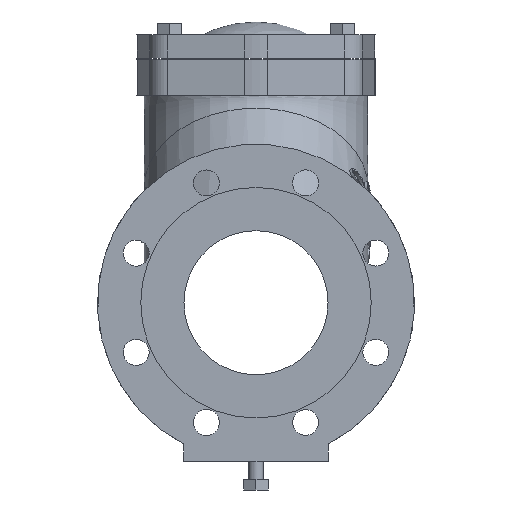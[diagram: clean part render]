
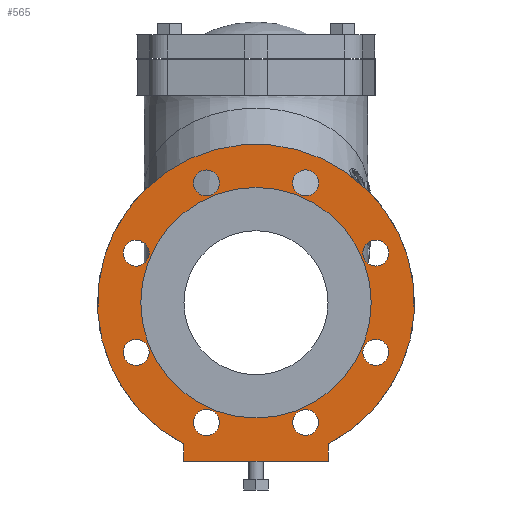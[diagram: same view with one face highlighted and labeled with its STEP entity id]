
A CAD part, front view. The second image highlights one B-rep face of the part: STEP entity #565.
In plain terms, the highlighted planar face has unit normal (0, -1, 0).
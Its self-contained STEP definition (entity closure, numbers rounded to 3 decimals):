
#565 = ADVANCED_FACE( '', ( #1348, #1349, #1350, #1351, #1352, #1353, #1354, #1355, #1356, #1357 ), #1358, .F. );
#1348 = FACE_OUTER_BOUND( '', #5144, .T. );
#1349 = FACE_BOUND( '', #5145, .T. );
#1350 = FACE_BOUND( '', #5146, .T. );
#1351 = FACE_BOUND( '', #5147, .T. );
#1352 = FACE_BOUND( '', #5148, .T. );
#1353 = FACE_BOUND( '', #5149, .T. );
#1354 = FACE_BOUND( '', #5150, .T. );
#1355 = FACE_BOUND( '', #5151, .T. );
#1356 = FACE_BOUND( '', #5152, .T. );
#1357 = FACE_BOUND( '', #5153, .T. );
#1358 = PLANE( '', #5154 );
#5144 = EDGE_LOOP( '', ( #12968, #12969, #12970, #12971 ) );
#5145 = EDGE_LOOP( '', ( #12972 ) );
#5146 = EDGE_LOOP( '', ( #12973 ) );
#5147 = EDGE_LOOP( '', ( #12974 ) );
#5148 = EDGE_LOOP( '', ( #12975 ) );
#5149 = EDGE_LOOP( '', ( #12976 ) );
#5150 = EDGE_LOOP( '', ( #12977 ) );
#5151 = EDGE_LOOP( '', ( #12978 ) );
#5152 = EDGE_LOOP( '', ( #12979 ) );
#5153 = EDGE_LOOP( '', ( #12980 ) );
#5154 = AXIS2_PLACEMENT_3D( '', #12981, #12982, #12983 );
#12968 = ORIENTED_EDGE( '', *, *, #15152, .T. );
#12969 = ORIENTED_EDGE( '', *, *, #15153, .T. );
#12970 = ORIENTED_EDGE( '', *, *, #15154, .T. );
#12971 = ORIENTED_EDGE( '', *, *, #15155, .T. );
#12972 = ORIENTED_EDGE( '', *, *, #14682, .F. );
#12973 = ORIENTED_EDGE( '', *, *, #15156, .T. );
#12974 = ORIENTED_EDGE( '', *, *, #15157, .T. );
#12975 = ORIENTED_EDGE( '', *, *, #14848, .T. );
#12976 = ORIENTED_EDGE( '', *, *, #15158, .T. );
#12977 = ORIENTED_EDGE( '', *, *, #15159, .T. );
#12978 = ORIENTED_EDGE( '', *, *, #14664, .T. );
#12979 = ORIENTED_EDGE( '', *, *, #15160, .T. );
#12980 = ORIENTED_EDGE( '', *, *, #15161, .T. );
#12981 = CARTESIAN_POINT( '', ( 0., -147., 80. ) );
#12982 = DIRECTION( '', ( 0., 1., 0. ) );
#12983 = DIRECTION( '', ( 0., 0., 1. ) );
#14664 = EDGE_CURVE( '', #15735, #15735, #15736, .T. );
#14682 = EDGE_CURVE( '', #15767, #15767, #15768, .T. );
#14848 = EDGE_CURVE( '', #16052, #16052, #16053, .T. );
#15152 = EDGE_CURVE( '', #16548, #16549, #16550, .T. );
#15153 = EDGE_CURVE( '', #16549, #16551, #16552, .T. );
#15154 = EDGE_CURVE( '', #16551, #16553, #16554, .T. );
#15155 = EDGE_CURVE( '', #16553, #16548, #16555, .T. );
#15156 = EDGE_CURVE( '', #16556, #16556, #16557, .T. );
#15157 = EDGE_CURVE( '', #16558, #16558, #16559, .T. );
#15158 = EDGE_CURVE( '', #16560, #16560, #16561, .T. );
#15159 = EDGE_CURVE( '', #16562, #16562, #16563, .T. );
#15160 = EDGE_CURVE( '', #16564, #16564, #16565, .T. );
#15161 = EDGE_CURVE( '', #16566, #16566, #16567, .T. );
#15735 = VERTEX_POINT( '', #17356 );
#15736 = CIRCLE( '', #17357, 9. );
#15767 = VERTEX_POINT( '', #17400 );
#15768 = CIRCLE( '', #17401, 80. );
#16052 = VERTEX_POINT( '', #19628 );
#16053 = CIRCLE( '', #19629, 9. );
#16548 = VERTEX_POINT( '', #21960 );
#16549 = VERTEX_POINT( '', #21961 );
#16550 = LINE( '', #21962, #21963 );
#16551 = VERTEX_POINT( '', #21964 );
#16552 = LINE( '', #21965, #21966 );
#16553 = VERTEX_POINT( '', #21967 );
#16554 = CIRCLE( '', #21968, 110. );
#16555 = LINE( '', #21969, #21970 );
#16556 = VERTEX_POINT( '', #21971 );
#16557 = CIRCLE( '', #21972, 9. );
#16558 = VERTEX_POINT( '', #21973 );
#16559 = CIRCLE( '', #21974, 9. );
#16560 = VERTEX_POINT( '', #21975 );
#16561 = CIRCLE( '', #21976, 9. );
#16562 = VERTEX_POINT( '', #21977 );
#16563 = CIRCLE( '', #21978, 9. );
#16564 = VERTEX_POINT( '', #21979 );
#16565 = CIRCLE( '', #21980, 9. );
#16566 = VERTEX_POINT( '', #21981 );
#16567 = CIRCLE( '', #21982, 9. );
#17356 = CARTESIAN_POINT( '', ( -74.149, -147., -34.442 ) );
#17357 = AXIS2_PLACEMENT_3D( '', #25656, #25657, #25658 );
#17400 = CARTESIAN_POINT( '', ( 0., -147., -80. ) );
#17401 = AXIS2_PLACEMENT_3D( '', #25674, #25675, #25676 );
#19628 = CARTESIAN_POINT( '', ( 76.785, -147., -28.078 ) );
#19629 = AXIS2_PLACEMENT_3D( '', #25747, #25748, #25749 );
#21960 = CARTESIAN_POINT( '', ( -50., -147., -110. ) );
#21961 = CARTESIAN_POINT( '', ( 50., -147., -110. ) );
#21962 = CARTESIAN_POINT( '', ( -50., -147., -110. ) );
#21963 = VECTOR( '', #25919, 1000. );
#21964 = CARTESIAN_POINT( '', ( 50., -147., -97.98 ) );
#21965 = CARTESIAN_POINT( '', ( 50., -147., -110. ) );
#21966 = VECTOR( '', #25920, 1000. );
#21967 = CARTESIAN_POINT( '', ( -50., -147., -97.98 ) );
#21968 = AXIS2_PLACEMENT_3D( '', #25921, #25922, #25923 );
#21969 = CARTESIAN_POINT( '', ( -50., -147., -110. ) );
#21970 = VECTOR( '', #25924, 1000. );
#21971 = CARTESIAN_POINT( '', ( 28.078, -147., 76.785 ) );
#21972 = AXIS2_PLACEMENT_3D( '', #25925, #25926, #25927 );
#21973 = CARTESIAN_POINT( '', ( 74.149, -147., 34.442 ) );
#21974 = AXIS2_PLACEMENT_3D( '', #25928, #25929, #25930 );
#21975 = CARTESIAN_POINT( '', ( 34.442, -147., -74.149 ) );
#21976 = AXIS2_PLACEMENT_3D( '', #25931, #25932, #25933 );
#21977 = CARTESIAN_POINT( '', ( -28.078, -147., -76.785 ) );
#21978 = AXIS2_PLACEMENT_3D( '', #25934, #25935, #25936 );
#21979 = CARTESIAN_POINT( '', ( -76.785, -147., 28.078 ) );
#21980 = AXIS2_PLACEMENT_3D( '', #25937, #25938, #25939 );
#21981 = CARTESIAN_POINT( '', ( -34.442, -147., 74.149 ) );
#21982 = AXIS2_PLACEMENT_3D( '', #25940, #25941, #25942 );
#25656 = CARTESIAN_POINT( '', ( -83.149, -147., -34.442 ) );
#25657 = DIRECTION( '', ( 0., 1., 0. ) );
#25658 = DIRECTION( '', ( 1., 0., 0. ) );
#25674 = CARTESIAN_POINT( '', ( 0., -147., 0. ) );
#25675 = DIRECTION( '', ( 0., -1., 0. ) );
#25676 = DIRECTION( '', ( 0., 0., -1. ) );
#25747 = CARTESIAN_POINT( '', ( 83.149, -147., -34.442 ) );
#25748 = DIRECTION( '', ( 0., 1., 0. ) );
#25749 = DIRECTION( '', ( -0.707, 0., 0.707 ) );
#25919 = DIRECTION( '', ( 1., 0., 0. ) );
#25920 = DIRECTION( '', ( 0., 0., 1. ) );
#25921 = CARTESIAN_POINT( '', ( 0., -147., 0. ) );
#25922 = DIRECTION( '', ( 0., -1., 0. ) );
#25923 = DIRECTION( '', ( 0., 0., -1. ) );
#25924 = DIRECTION( '', ( 0., 0., -1. ) );
#25925 = CARTESIAN_POINT( '', ( 34.442, -147., 83.149 ) );
#25926 = DIRECTION( '', ( 0., 1., 0. ) );
#25927 = DIRECTION( '', ( -0.707, 0., -0.707 ) );
#25928 = CARTESIAN_POINT( '', ( 83.149, -147., 34.442 ) );
#25929 = DIRECTION( '', ( 0., 1., 0. ) );
#25930 = DIRECTION( '', ( -1., 0., 0. ) );
#25931 = CARTESIAN_POINT( '', ( 34.442, -147., -83.149 ) );
#25932 = DIRECTION( '', ( 0., 1., 0. ) );
#25933 = DIRECTION( '', ( 0., 0., 1. ) );
#25934 = CARTESIAN_POINT( '', ( -34.442, -147., -83.149 ) );
#25935 = DIRECTION( '', ( 0., 1., 0. ) );
#25936 = DIRECTION( '', ( 0.707, 0., 0.707 ) );
#25937 = CARTESIAN_POINT( '', ( -83.149, -147., 34.442 ) );
#25938 = DIRECTION( '', ( 0., 1., 0. ) );
#25939 = DIRECTION( '', ( 0.707, 0., -0.707 ) );
#25940 = CARTESIAN_POINT( '', ( -34.442, -147., 83.149 ) );
#25941 = DIRECTION( '', ( 0., 1., 0. ) );
#25942 = DIRECTION( '', ( 0., 0., -1. ) );
